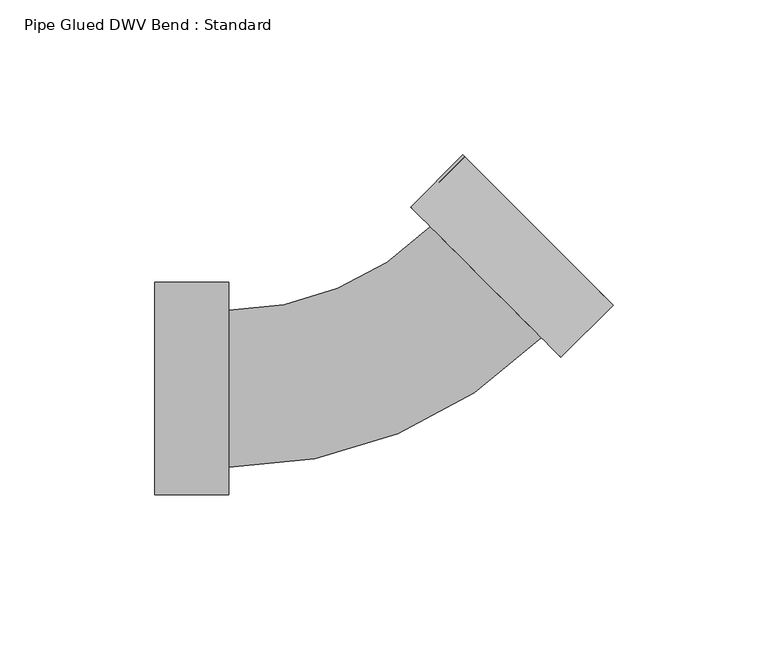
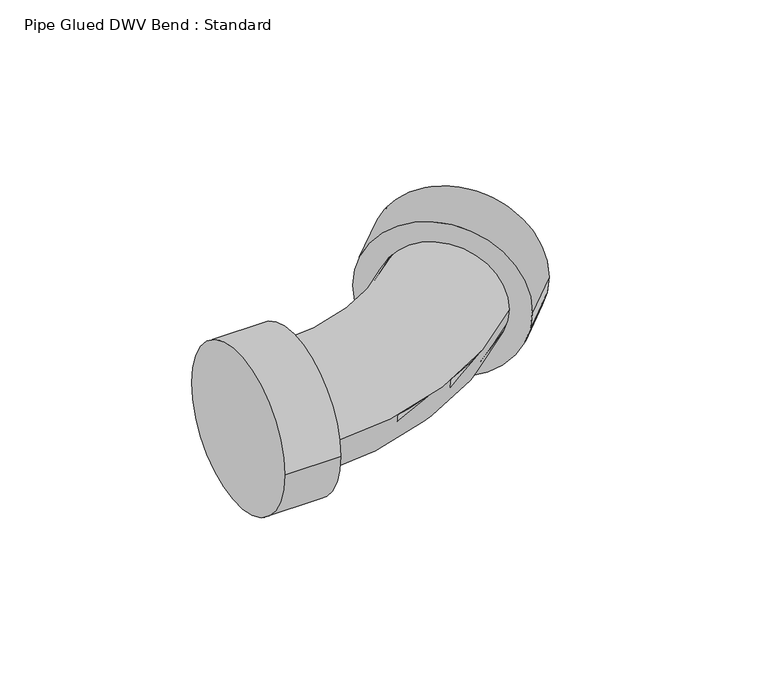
"""IFC4 building model written with IfcOpenShell, lengths in millimetres: pipe fitting geometry, Pipe Glued DWV Bend : Standard."""

from ifc_helpers import new_model, si_unit, point, frame, origin, origin_2d, place, context, project, spatial, circle_curve, ellipse_curve, trimmed, segment, composite_curve, outline, extrude, source, transform, mapped, element, save
from ifc_brep_helpers import plane_surface, cylinder_surface, revolved_surface, advanced_brep


def pipe_glued_dwv_bend_standard_cf378dc1(model_context):
    return source(origin(), model_context, "Body", "SolidModel", [
        advanced_brep(
        [(-48.6550278, -25.4, 0.0), (-48.6550278, 25.4, 0.0), (52.3659378, 16.4402034, 0.0), (16.4473723, 52.3636866, 0.0)],
        [
            (0, 1, circle_curve(frame((-48.6550278, 0.0, 0.0), z_axis=(-1.0, 0.0, 0.0), x_axis=(0.0, 1.0, 0.0)), 25.4)),
            (1, 0, circle_curve(frame((-48.6550278, 0.0, 0.0), z_axis=(-1.0, 0.0, 0.0), x_axis=(0.0, 1.0, 0.0)), 25.4)),
            (2, 3, circle_curve(frame((34.406655, 34.401945, 0.0), z_axis=(0.7071551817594, 0.7070583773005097, 0.0), x_axis=(-0.7070583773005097, 0.7071551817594, 0.0)), 25.4)),
            (3, 2, circle_curve(frame((34.406655, 34.401945, 0.0), z_axis=(0.7071551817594, 0.7070583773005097, 0.0), x_axis=(-0.7070583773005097, 0.7071551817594, 0.0)), 25.4)),
            (3, 1, circle_curve(frame((-48.6550278, 117.475, 0.0), z_axis=(0.0, 0.0, -1.0), x_axis=(0.0, -1.0, 0.0)), 92.075)),
            (0, 2, circle_curve(frame((-48.6550278, 117.475, 0.0), z_axis=(0.0, 0.0, 1.0), x_axis=(0.0, -1.0, 0.0)), 142.875)),
        ],
        [
            plane_surface(frame((-48.6550278, 0.0, 0.0), z_axis=(-1.0, 0.0, 0.0), x_axis=(0.0, 0.0, 1.0))),
            plane_surface(frame((34.406655, 34.401945, 0.0), z_axis=(0.7071551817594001, 0.7070583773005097, 0.0), x_axis=(0.0, 0.0, 1.0))),
            revolved_surface(trimmed(ellipse_curve(frame((-48.6550278, 0.0, 0.0), z_axis=(-1.0, 0.0, 0.0), x_axis=(0.0, 1.0, 0.0)), 25.4, 25.4), [point((-48.6550278, -25.4, 0.0))], [point((-48.6550278, 25.4, 0.0))], True, "CARTESIAN"), (-48.6550278, 117.475, 0.0), (0.0, 0.0, 1.0)),
            revolved_surface(trimmed(ellipse_curve(frame((-48.6550278, 0.0, 0.0), z_axis=(-1.0, 0.0, 0.0), x_axis=(0.0, 1.0, 0.0)), 25.4, 25.4), [point((-48.6550278, 25.4, 0.0))], [point((-48.6550278, -25.4, 0.0))], True, "CARTESIAN"), (-48.6550278, 117.475, 0.0), (0.0, 0.0, 1.0)),
        ],
        [
            (0, [[1, 2]]),
            (1, [[3, 4]]),
            (2, [[5, -1, 6, -4]]),
            (3, [[-6, -2, -5, -3]]),
        ],
    ),
        extrude(outline(composite_curve([segment(trimmed(circle_curve(origin_2d(), 34.3154), [point((-34.3154, 0.0))], [point((34.3154, 0.0))], False, "CARTESIAN"), True, "CONTINUOUS"), segment(trimmed(circle_curve(origin_2d(), 34.3154), [point((34.3154, 0.0))], [point((-34.3154, 0.0))], False, "CARTESIAN"), True, "CONTINUOUS")], self_intersect=False)), frame((-72.4675278, 0.0, 0.0), z_axis=(1.0, 0.0, 0.0), x_axis=(0.0, 1.0, 0.0)), (0.0, 0.0, 1.0), 23.8125),
        extrude(outline(composite_curve([segment(trimmed(circle_curve(origin_2d(), 34.3154), [point((0.0, -34.3154))], [point((0.0, 34.3154))], False, "CARTESIAN"), True, "CONTINUOUS"), segment(trimmed(circle_curve(origin_2d(), 34.3154), [point((0.0, 34.3154))], [point((0.0, -34.3154))], False, "CARTESIAN"), True, "CONTINUOUS")], self_intersect=False)), frame((34.406655, 34.401945, 0.0), z_axis=(0.7071551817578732, 0.7070583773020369, 0.0), x_axis=(0.0, 0.0, 1.0)), (0.0, 0.0, 1.0), 23.8125),
        advanced_brep(
        [(-72.4675278, -34.3154, 0.0), (-72.4675278, 34.3154, 0.0), (-48.6550278, -34.3154, 0.0), (-48.6550278, 34.3154, 0.0), (-48.6550278, -25.4, 0.0), (-48.6550278, 25.4, 0.0), (16.4473723, 52.3636866, 0.0), (52.3659378, 16.4402034, 0.0), (58.6696461, 10.1356321, 0.0), (10.143664, 58.6682579, 0.0), (75.5087789, 26.9724597, 0.0), (26.9827968, 75.5050856, 0.0)],
        [
            (0, 1, circle_curve(frame((-72.4675278, 0.0, 0.0), z_axis=(-1.0, 0.0, 0.0), x_axis=(0.0, 1.0, 0.0)), 34.3154)),
            (1, 0, circle_curve(frame((-72.4675278, 0.0, 0.0), z_axis=(-1.0, 0.0, 0.0), x_axis=(0.0, 1.0, 0.0)), 34.3154)),
            (2, 3, circle_curve(frame((-48.6550278, 0.0, 0.0), z_axis=(1.0, 0.0, 0.0), x_axis=(0.0, 1.0, 0.0)), 34.3154)),
            (3, 2, circle_curve(frame((-48.6550278, 0.0, 0.0), z_axis=(1.0, 0.0, 0.0), x_axis=(0.0, 1.0, 0.0)), 34.3154)),
            (4, 5, circle_curve(frame((-48.6550278, 0.0, 0.0), z_axis=(-1.0, 0.0, 0.0), x_axis=(0.0, 1.0, 0.0)), 25.4)),
            (5, 4, circle_curve(frame((-48.6550278, 0.0, 0.0), z_axis=(-1.0, 0.0, 0.0), x_axis=(0.0, 1.0, 0.0)), 25.4)),
            (0, 2),
            (3, 1),
            (6, 5, circle_curve(frame((-48.6550278, 117.475, 0.0), z_axis=(0.0, 0.0, -1.0), x_axis=(0.0, -1.0, 0.0)), 92.075)),
            (4, 7, circle_curve(frame((-48.6550278, 117.475, 0.0), z_axis=(0.0, 0.0, 1.0), x_axis=(0.0, -1.0, 0.0)), 142.875)),
            (7, 6, circle_curve(frame((34.406655, 34.401945, 0.0), z_axis=(-0.7071551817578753, -0.7070583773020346, 0.0), x_axis=(-0.7070583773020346, 0.7071551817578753, 0.0)), 25.4)),
            (6, 7, circle_curve(frame((34.406655, 34.401945, 0.0), z_axis=(-0.7071551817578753, -0.7070583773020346, 0.0), x_axis=(-0.7070583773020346, 0.7071551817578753, 0.0)), 25.4)),
            (8, 9, circle_curve(frame((34.406655, 34.401945, 0.0), z_axis=(-0.7071551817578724, -0.7070583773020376, 0.0), x_axis=(-0.7070583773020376, 0.7071551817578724, 0.0)), 34.3154)),
            (9, 8, circle_curve(frame((34.406655, 34.401945, 0.0), z_axis=(-0.7071551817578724, -0.7070583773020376, 0.0), x_axis=(-0.7070583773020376, 0.7071551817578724, 0.0)), 34.3154)),
            (10, 11, circle_curve(frame((51.2457878, 51.2387726, 0.0), z_axis=(0.7071551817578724, 0.7070583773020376, 0.0), x_axis=(-0.7070583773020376, 0.7071551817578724, 0.0)), 34.3154)),
            (11, 10, circle_curve(frame((51.2457878, 51.2387726, 0.0), z_axis=(0.7071551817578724, 0.7070583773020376, 0.0), x_axis=(-0.7070583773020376, 0.7071551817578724, 0.0)), 34.3154)),
            (8, 10),
            (11, 9),
        ],
        [
            plane_surface(frame((-72.4675278, 0.0, 0.0), z_axis=(-1.0, 0.0, 0.0), x_axis=(0.0, 0.0, 1.0))),
            plane_surface(frame((-48.6550278, 0.0, 0.0), z_axis=(1.0, 0.0, 0.0), x_axis=(0.0, 0.0, 1.0))),
            cylinder_surface(frame((-72.4675278, 0.0, 0.0), z_axis=(-1.0, 0.0, 0.0), x_axis=(0.0, 1.0, 0.0)), 34.3154),
            revolved_surface(trimmed(ellipse_curve(frame((-48.6550278, 0.0, 0.0), z_axis=(-1.0, 0.0, 0.0), x_axis=(0.0, 1.0, 0.0)), 25.4, 25.4), [point((-48.6550278, -25.4, 0.0))], [point((-48.6550278, 25.4, 0.0))], True, "CARTESIAN"), (-48.6550278, 117.475, 0.0), (0.0, 0.0, 1.0)),
            revolved_surface(trimmed(ellipse_curve(frame((-48.6550278, 0.0, 0.0), z_axis=(-1.0, 0.0, 0.0), x_axis=(0.0, 1.0, 0.0)), 25.4, 25.4), [point((-48.6550278, 25.4, 0.0))], [point((-48.6550278, -25.4, 0.0))], True, "CARTESIAN"), (-48.6550278, 117.475, 0.0), (0.0, 0.0, 1.0)),
            plane_surface(frame((34.406655, 34.401945, 0.0), z_axis=(-0.7071551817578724, -0.7070583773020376, 0.0), x_axis=(0.0, 0.0, 1.0))),
            plane_surface(frame((51.2457878, 51.2387726, 0.0), z_axis=(0.7071551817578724, 0.7070583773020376, 0.0), x_axis=(0.0, 0.0, 1.0))),
            cylinder_surface(frame((34.406655, 34.401945, 0.0), z_axis=(-0.7071551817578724, -0.7070583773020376, 0.0), x_axis=(-0.7070583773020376, 0.7071551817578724, 0.0)), 34.3154),
        ],
        [
            (0, [[1, 2]]),
            (1, [[3, 4], [5, 6]]),
            (2, [[-1, 7, -4, 8]]),
            (2, [[-2, -8, -3, -7]]),
            (3, [[9, -5, 10, 11]]),
            (4, [[-9, 12, -10, -6]]),
            (5, [[13, 14], [-11, -12]]),
            (6, [[15, 16]]),
            (7, [[-13, 17, -16, 18]]),
            (7, [[-14, -18, -15, -17]]),
        ],
    ),
    ])


if __name__ == "__main__":
    model = new_model("IFC4")
    model_context = context("Model", 3, world=origin())
    ifc_project = project(units=[si_unit("LENGTHUNIT", "METRE", prefix="MILLI")], contexts=[model_context])
    site = spatial("IfcSite", under=ifc_project)
    building = spatial("IfcBuilding", under=site)
    placement = place(None, origin())
    pipe_glued_dwv_bend_standard_shape = pipe_glued_dwv_bend_standard_cf378dc1(model_context)
    element("IfcPipeFitting", 1, ObjectType="Pipe Glued DWV Bend : Standard", at=placement, inside=building, context=model_context, shape_type="MappedRepresentation", body=[
        mapped(pipe_glued_dwv_bend_standard_shape, transform((0.0, 0.0, 0.0), x_axis=(1.0, 0.0, 0.0), y_axis=(0.0, 1.0, 0.0), z_axis=(0.0, 0.0, 1.0))),
    ])
    save(model, "model.ifc")
